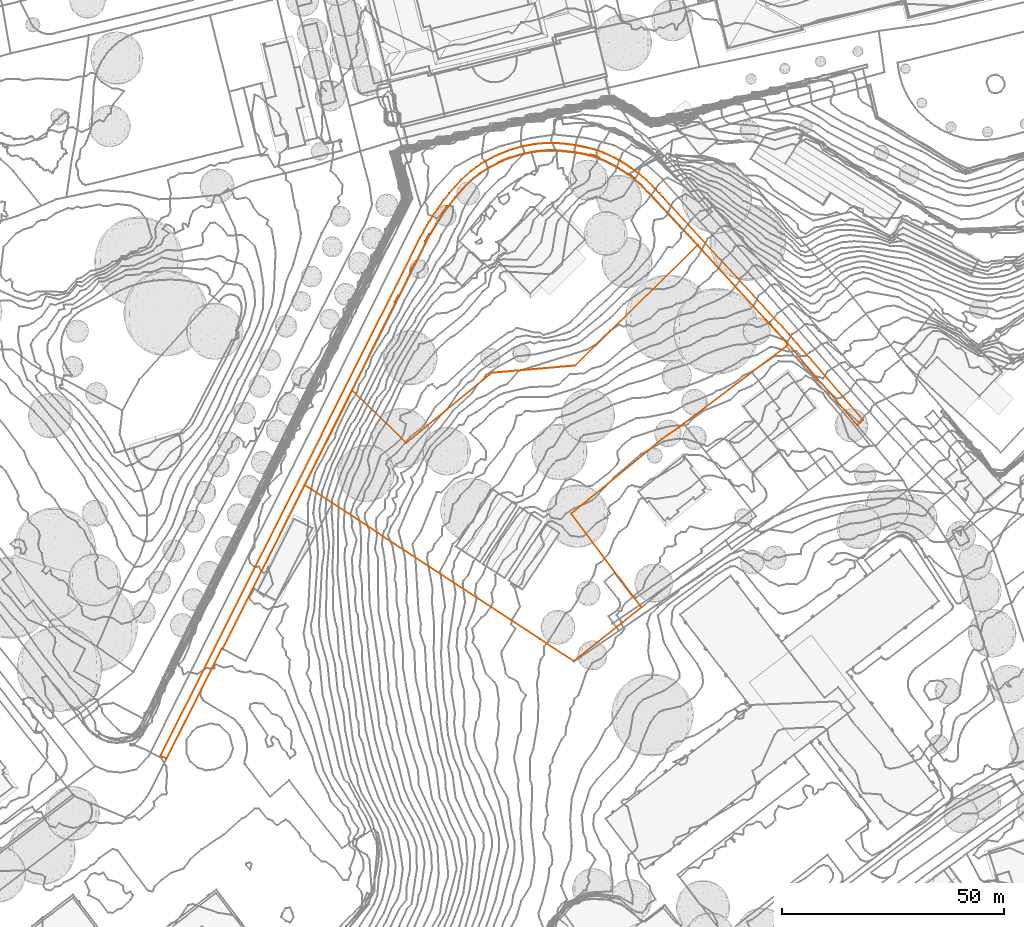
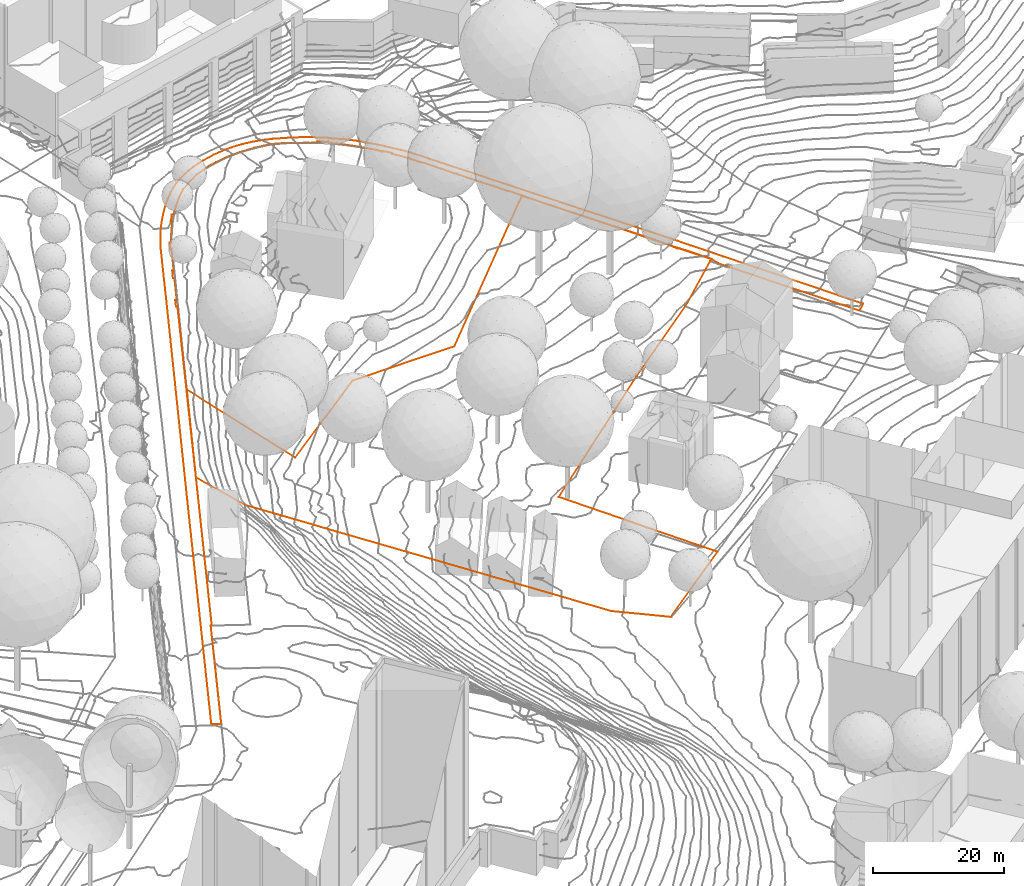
# Not in any storey, part 165 of 494: 2 proxies.
"""IFC2X3 model written with IfcOpenShell, lengths in metres."""

from ifc_helpers import new_model, entity, si_unit, frame, origin_with_axes, place, context, subcontext, project, element, save


model = new_model("IFC2X3")

# Units and contexts
model_context = context("Model", 3, precision=1e-05, world=origin_with_axes())
body_context = subcontext(model_context, "Body", "Model", "MODEL_VIEW")
ifc_project = project(units=[si_unit("AREAUNIT", "SQUARE_METRE"), si_unit("LENGTHUNIT", "METRE")], contexts=[model_context])

# Proxies
proxy_1_placement = place(None, frame((258.4407320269, 176.5507160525, 534.9932303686), z_axis=(0.0, 0.0, 1.0), x_axis=(1.0, 0.0, 0.0)))
element("IfcBuildingElementProxy", 1, at=proxy_1_placement, Name="Roads Outline 39", ObjectType="NOTDEFINED", context=body_context, shape_type="GeometricCurveSet", body=[
    entity("IfcGeometricCurveSet", [entity("IfcPolyline", [entity("IfcCartesianPoint", [0.0, 0.0, 0.0]), entity("IfcCartesianPoint", [28.0809999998, 55.9379999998, -2.1941897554]), entity("IfcCartesianPoint", [51.3589999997, 102.412, -2.7051865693]), entity("IfcCartesianPoint", [58.4509999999, 116.6199999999, -2.9280184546]), entity("IfcCartesianPoint", [59.395, 118.3809999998, -2.9184431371]), entity("IfcCartesianPoint", [60.4019999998, 120.108, -2.9298762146]), entity("IfcCartesianPoint", [61.4689999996, 121.7969999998, -3.0008347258]), entity("IfcCartesianPoint", [62.5959999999, 123.4479999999, -3.064816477]), entity("IfcCartesianPoint", [63.7909999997, 125.0719999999, -3.1437195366]), entity("IfcCartesianPoint", [65.0439999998, 126.652, -3.2449604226]), entity("IfcCartesianPoint", [66.3529999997, 128.186, -3.3638527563]), entity("IfcCartesianPoint", [67.7169999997, 129.6719999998, -3.4773492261]), entity("IfcCartesianPoint", [68.7769999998, 130.669, -3.5242470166]), entity("IfcCartesianPoint", [69.8869999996, 131.6089999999, -3.6548779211]), entity("IfcCartesianPoint", [71.0449999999, 132.49, -3.7884079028]), entity("IfcCartesianPoint", [72.2479999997, 133.3089999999, -3.9108324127]), entity("IfcCartesianPoint", [73.3689999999, 133.9809999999, -4.0461532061]), entity("IfcCartesianPoint", [74.5179999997, 134.605, -4.1854265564]), entity("IfcCartesianPoint", [75.6919999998, 135.179, -4.3173669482]), entity("IfcCartesianPoint", [76.8909999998, 135.7009999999, -4.4718245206]), entity("IfcCartesianPoint", [78.1099999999, 136.1719999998, -4.6067301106]), entity("IfcCartesianPoint", [79.2829999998, 136.5669999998, -4.7459179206]), entity("IfcCartesianPoint", [80.4699999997, 136.9139999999, -4.8985820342]), entity("IfcCartesianPoint", [81.6709999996, 137.2139999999, -5.0390430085]), entity("IfcCartesianPoint", [82.8819999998, 137.4649999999, -5.2125437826]), entity("IfcCartesianPoint", [84.0219999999, 137.6649999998, -5.386561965]), entity("IfcCartesianPoint", [85.1699999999, 137.814, -5.5716109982]), entity("IfcCartesianPoint", [86.3239999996, 137.912, -5.755787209]), entity("IfcCartesianPoint", [87.693, 137.9609999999, -5.9784115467]), entity("IfcCartesianPoint", [89.0619999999, 137.9379999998, -6.2307997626]), entity("IfcCartesianPoint", [90.4279999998, 137.8429999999, -6.4846069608]), entity("IfcCartesianPoint", [90.9819999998, 137.7819999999, -6.581986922]), entity("IfcCartesianPoint", [91.5349999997, 137.7179999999, -6.7101741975]), entity("IfcCartesianPoint", [92.0959999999, 137.6479999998, -6.8181850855]), entity("IfcCartesianPoint", [92.6569999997, 137.5729999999, -6.919363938]), entity("IfcCartesianPoint", [93.1999999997, 137.4939999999, -7.0449811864]), entity("IfcCartesianPoint", [93.7419999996, 137.4069999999, -7.1700640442]), entity("IfcCartesianPoint", [94.2889999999, 137.3099999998, -7.2558833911]), entity("IfcCartesianPoint", [94.835, 137.2049999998, -7.3405940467]), entity("IfcCartesianPoint", [95.3729999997, 137.0919999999, -7.4646587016]), entity("IfcCartesianPoint", [95.909, 136.9719999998, -7.5907427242]), entity("IfcCartesianPoint", [96.4519999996, 136.8399999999, -7.695318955]), entity("IfcCartesianPoint", [96.9939999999, 136.7009999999, -7.8042030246]), entity("IfcCartesianPoint", [97.5429999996, 136.5549999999, -7.9361181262]), entity("IfcCartesianPoint", [98.0869999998, 136.3939999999, -8.0451588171]), entity("IfcCartesianPoint", [98.6119999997, 136.2259999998, -8.1346325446]), entity("IfcCartesianPoint", [99.1299999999, 136.0389999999, -8.2594257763]), entity("IfcCartesianPoint", [99.6309999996, 135.8289999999, -8.3953654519]), entity("IfcCartesianPoint", [100.1299999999, 135.615, -8.5004742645]), entity("IfcCartesianPoint", [100.639, 135.3929999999, -8.5900460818]), entity("IfcCartesianPoint", [101.1429999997, 135.1609999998, -8.6610349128]), entity("IfcCartesianPoint", [102.1369999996, 134.669, -8.86525333]), entity("IfcCartesianPoint", [102.6329999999, 134.4099999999, -8.9685751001]), entity("IfcCartesianPoint", [103.125, 134.142, -9.0752280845]), entity("IfcCartesianPoint", [103.5979999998, 133.8709999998, -9.194695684]), entity("IfcCartesianPoint", [104.0669999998, 133.5919999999, -9.3115271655]), entity("IfcCartesianPoint", [104.5389999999, 133.3029999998, -9.4322658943]), entity("IfcCartesianPoint", [105.0039999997, 133.0029999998, -9.5430415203]), entity("IfcCartesianPoint", [105.4669999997, 132.6849999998, -9.6327798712]), entity("IfcCartesianPoint", [105.926, 132.362, -9.7249984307]), entity("IfcCartesianPoint", [106.6689999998, 131.8189999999, -9.9233890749]), entity("IfcCartesianPoint", [106.7859999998, 131.7349999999, -9.9518808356]), entity("IfcCartesianPoint", [107.6719999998, 131.0669999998, -10.1928173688]), entity("IfcCartesianPoint", [108.5899999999, 130.3289999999, -10.3543799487]), entity("IfcCartesianPoint", [109.4149999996, 129.5829999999, -10.5653008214]), entity("IfcCartesianPoint", [110.8169999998, 128.2629999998, -10.9705973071]), entity("IfcCartesianPoint", [111.5739999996, 127.463, -11.2037465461]), entity("IfcCartesianPoint", [112.341, 126.6399999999, -11.4196706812]), entity("IfcCartesianPoint", [113.1819999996, 125.7659999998, -11.6384592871]), entity("IfcCartesianPoint", [114.6689999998, 124.1469999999, -12.0301406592]), entity("IfcCartesianPoint", [118.8789999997, 119.598, -13.1267878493]), entity("IfcCartesianPoint", [138.537, 98.2239999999, -18.2417623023]), entity("IfcCartesianPoint", [140.0419999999, 96.595, -18.6389232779]), entity("IfcCartesianPoint", [141.5259999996, 94.9469999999, -19.0241555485]), entity("IfcCartesianPoint", [142.5049999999, 93.838, -19.2953215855]), entity("IfcCartesianPoint", [143.4739999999, 92.7209999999, -19.5544556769]), entity("IfcCartesianPoint", [158.2519999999, 75.6159999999, -23.1454427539]), entity("IfcCartesianPoint", [157.0629999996, 74.588, -23.2337562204]), entity("IfcCartesianPoint", [156.9139999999, 74.4589999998, -23.2733692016]), entity("IfcCartesianPoint", [142.2559999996, 91.6719999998, -19.8701355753]), entity("IfcCartesianPoint", [141.2939999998, 92.777, -19.2123920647]), entity("IfcCartesianPoint", [140.3259999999, 93.8779999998, -19.0018966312]), entity("IfcCartesianPoint", [138.8489999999, 95.5159999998, -18.6023526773]), entity("IfcCartesianPoint", [137.3529999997, 97.1359999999, -18.2573435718]), entity("IfcCartesianPoint", [121.9359999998, 113.9509999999, -14.1481618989]), entity("IfcCartesianPoint", [121.0049999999, 114.9839999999, -13.8669859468]), entity("IfcCartesianPoint", [120.0639999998, 116.0089999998, -13.5989385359]), entity("IfcCartesianPoint", [119.4389999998, 116.6779999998, -13.4766328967]), entity("IfcCartesianPoint", [118.8099999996, 117.3429999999, -13.3391813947]), entity("IfcCartesianPoint", [112.2089999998, 124.4679999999, -11.5678379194]), entity("IfcCartesianPoint", [111.1819999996, 125.5489999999, -11.2597870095]), entity("IfcCartesianPoint", [110.4559999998, 126.328, -11.0664479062]), entity("IfcCartesianPoint", [109.7319999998, 127.0649999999, -10.9305952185]), entity("IfcCartesianPoint", [108.4159999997, 128.3909999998, -10.5483261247]), entity("IfcCartesianPoint", [107.5529999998, 129.1209999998, -10.3187222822]), entity("IfcCartesianPoint", [106.713, 129.808, -10.1239754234]), entity("IfcCartesianPoint", [106.8429999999, 129.9859999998, -10.1139167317]), entity("IfcCartesianPoint", [106.0159999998, 130.618, -9.93410246]), entity("IfcCartesianPoint", [105.5349999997, 130.929, -9.8262239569]), entity("IfcCartesianPoint", [105.4509999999, 130.8019999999, -9.8125750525]), entity("IfcCartesianPoint", [105.0439999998, 131.0989999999, -9.6743166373]), entity("IfcCartesianPoint", [104.179, 131.666, -9.4657143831]), entity("IfcCartesianPoint", [103.3119999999, 132.2379999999, -9.272102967]), entity("IfcCartesianPoint", [102.3809999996, 132.7689999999, -9.0337141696]), entity("IfcCartesianPoint", [101.4709999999, 133.26, -8.8326163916]), entity("IfcCartesianPoint", [100.5069999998, 133.72, -8.5761258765]), entity("IfcCartesianPoint", [99.5449999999, 134.166, -8.3607004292]), entity("IfcCartesianPoint", [98.7909999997, 134.5, -8.2279269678]), entity("IfcCartesianPoint", [98.8589999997, 134.686, -8.2342245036]), entity("IfcCartesianPoint", [98.287, 134.906, -8.0808136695]), entity("IfcCartesianPoint", [97.7069999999, 135.1009999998, -7.9246045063]), entity("IfcCartesianPoint", [97.2109999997, 135.2459999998, -7.8267730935]), entity("IfcCartesianPoint", [96.71, 135.3729999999, -7.7247022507]), entity("IfcCartesianPoint", [96.645, 135.176, -7.7168262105]), entity("IfcCartesianPoint", [95.6149999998, 135.4479999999, -7.5981515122]), entity("IfcCartesianPoint", [94.6119999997, 135.6609999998, -7.3517283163]), entity("IfcCartesianPoint", [93.5689999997, 135.8359999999, -7.2071753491]), entity("IfcCartesianPoint", [92.4819999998, 135.96, -6.8781154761]), entity("IfcCartesianPoint", [91.3899999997, 136.0859999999, -6.5484054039]), entity("IfcCartesianPoint", [90.2999999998, 136.1969999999, -6.3251213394]), entity("IfcCartesianPoint", [89.1109999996, 136.314, -6.081226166]), entity("IfcCartesianPoint", [87.716, 136.338, -5.9369522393]), entity("IfcCartesianPoint", [86.3219999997, 136.284, -5.7734608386]), entity("IfcCartesianPoint", [84.9249999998, 136.152, -5.583743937]), entity("IfcCartesianPoint", [83.537, 135.9419999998, -5.3670835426]), entity("IfcCartesianPoint", [80.9519999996, 135.358, -5.0110264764]), entity("IfcCartesianPoint", [78.605, 134.629, -4.7393588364]), entity("IfcCartesianPoint", [78.0719999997, 134.4669999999, -4.6891772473]), entity("IfcCartesianPoint", [77.548, 134.2759999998, -4.6073420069]), entity("IfcCartesianPoint", [76.8569999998, 133.9689999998, -4.42221271]), entity("IfcCartesianPoint", [76.1909999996, 133.6109999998, -4.3380241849]), entity("IfcCartesianPoint", [73.8669999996, 132.4009999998, -4.0671826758]), entity("IfcCartesianPoint", [71.7409999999, 131.041, -3.8227268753]), entity("IfcCartesianPoint", [69.7879999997, 129.4819999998, -3.5710585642]), entity("IfcCartesianPoint", [68.0319999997, 127.6779999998, -3.4375213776]), entity("IfcCartesianPoint", [66.395, 125.7749999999, -3.2821843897]), entity("IfcCartesianPoint", [64.6739999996, 123.575, -2.8625301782]), entity("IfcCartesianPoint", [64.477, 123.7119999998, -2.9101156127]), entity("IfcCartesianPoint", [63.3959999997, 122.142, -2.8953436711]), entity("IfcCartesianPoint", [63.5829999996, 122.024, -2.8666530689]), entity("IfcCartesianPoint", [62.0629999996, 119.6649999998, -2.7936856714]), entity("IfcCartesianPoint", [60.6409999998, 117.308, -2.8427328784]), entity("IfcCartesianPoint", [60.4449999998, 117.399, -2.8604498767]), entity("IfcCartesianPoint", [59.622, 115.841, -2.8083477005]), entity("IfcCartesianPoint", [59.8129999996, 115.737, -2.7867799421]), entity("IfcCartesianPoint", [57.2109999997, 110.5419999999, -2.7858780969]), entity("IfcCartesianPoint", [57.0069999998, 110.6209999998, -2.7920559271]), entity("IfcCartesianPoint", [56.176, 108.9949999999, -2.8837072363]), entity("IfcCartesianPoint", [56.3729999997, 108.8779999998, -2.8921651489]), entity("IfcCartesianPoint", [53.7089999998, 103.5469999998, -2.7691698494]), entity("IfcCartesianPoint", [53.5069999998, 103.6409999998, -2.7660103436]), entity("IfcCartesianPoint", [52.7369999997, 102.102, -2.7572973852]), entity("IfcCartesianPoint", [52.9339999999, 101.9839999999, -2.7746390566]), entity("IfcCartesianPoint", [28.9139999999, 53.8529999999, -2.0496232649]), entity("IfcCartesianPoint", [13.9579999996, 24.041, -1.1704440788]), entity("IfcCartesianPoint", [13.8149999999, 24.115, -1.1579527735]), entity("IfcCartesianPoint", [9.3199999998, 15.162, -0.6639904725]), entity("IfcCartesianPoint", [1.3629999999, -0.6850000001, -0.0392285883]), entity("IfcCartesianPoint", [0.0, 0.0, 0.0])])]),
])
proxy_2_placement = place(None, frame((290.9347320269, 237.4897160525, 532.4584425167), z_axis=(0.0, 0.0, 1.0), x_axis=(1.0, 0.0, 0.0)))
element("IfcBuildingElementProxy", 2, at=proxy_2_placement, Name="Cadastre 36", ObjectType="NOTDEFINED", context=body_context, shape_type="GeometricCurveSet", body=[
    entity("IfcGeometricCurveSet", [entity("IfcPolyline", [entity("IfcCartesianPoint", [0.0, 0.0, 0.0]), entity("IfcCartesianPoint", [10.662, 21.257, -0.291453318]), entity("IfcCartesianPoint", [22.8699999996, 9.4709999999, -10.02995243]), entity("IfcCartesianPoint", [42.0979999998, 25.2819999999, -12.0196683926]), entity("IfcCartesianPoint", [60.9249999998, 26.9319999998, -13.272535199]), entity("IfcCartesianPoint", [88.4239999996, 53.9829999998, -11.3228963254]), entity("IfcCartesianPoint", [103.165, 37.9399999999, -15.145095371]), entity("IfcCartesianPoint", [105.2059999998, 35.6449999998, -15.888453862]), entity("IfcCartesianPoint", [105.2760000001, 35.706, -15.8650785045]), entity("IfcCartesianPoint", [108.852, 31.6349999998, -16.7063478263]), entity("IfcCartesianPoint", [108.4399999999, 31.3229999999, -16.7585370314]), entity("IfcCartesianPoint", [100.7109999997, 25.473, -18.8629936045]), entity("IfcCartesianPoint", [85.3429999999, 13.8219999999, -19.50225592]), entity("IfcCartesianPoint", [80.389, 10.3199999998, -20.4497011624]), entity("IfcCartesianPoint", [60.0189999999, -6.432, -20.6967910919]), entity("IfcCartesianPoint", [75.7939999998, -27.493, -23.6460400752]), entity("IfcCartesianPoint", [60.5039999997, -39.6310000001, -23.0355200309]), entity("IfcCartesianPoint", [52.9589999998, -34.689, -22.2993889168]), entity("IfcCartesianPoint", [6.2429999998, -4.0890000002, -4.7964509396]), entity("IfcCartesianPoint", [0.0, 0.0, 0.0])])]),
])

save(model, "model.ifc")
